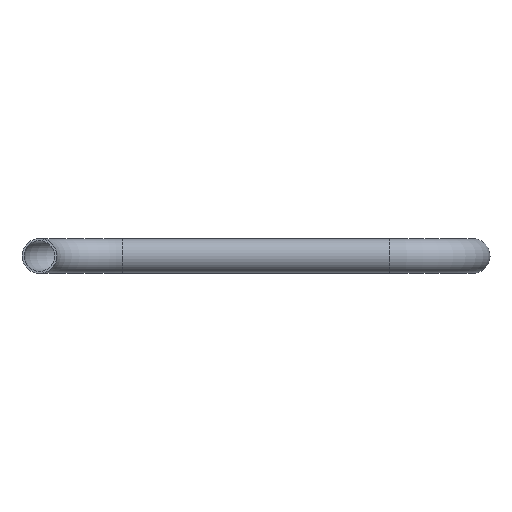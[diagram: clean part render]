
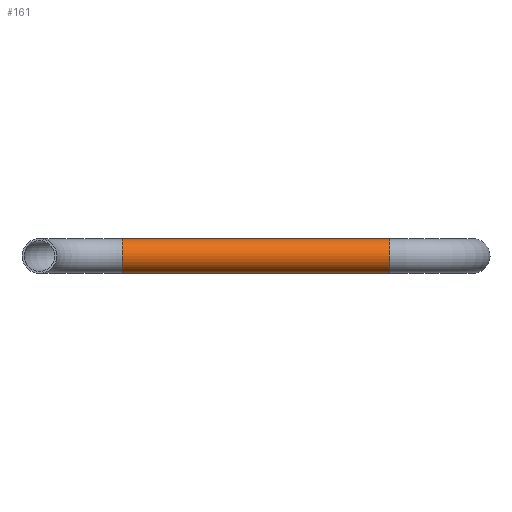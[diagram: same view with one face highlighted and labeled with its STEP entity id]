
A CAD part, front view. The second image highlights one B-rep face of the part: STEP entity #161.
In plain terms, the highlighted cylindrical face has radius 24.15 mm (diameter 48.3 mm), a full revolution.
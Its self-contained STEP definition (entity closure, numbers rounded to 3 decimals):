
#21 = CIRCLE ( 'NONE', #278, 24.15 ) ;
#37 = CARTESIAN_POINT ( 'NONE',  ( 485., 400., 24.15 ) ) ;
#40 = AXIS2_PLACEMENT_3D ( 'NONE', #179, #305, #279 ) ;
#72 = FACE_OUTER_BOUND ( 'NONE', #216, .T. ) ;
#73 = FACE_OUTER_BOUND ( 'NONE', #159, .T. ) ;
#76 = DIRECTION ( 'NONE',  ( 1., 0., 0. ) ) ;
#104 = VERTEX_POINT ( 'NONE', #106 ) ;
#106 = CARTESIAN_POINT ( 'NONE',  ( 115., 400., 24.15 ) ) ;
#117 = CIRCLE ( 'NONE', #40, 24.15 ) ;
#126 = CARTESIAN_POINT ( 'NONE',  ( 485., 400., 0. ) ) ;
#159 = EDGE_LOOP ( 'NONE', ( #238 ) ) ;
#161 = ADVANCED_FACE ( 'NONE', ( #73, #72 ), #171, .T. ) ;
#171 = CYLINDRICAL_SURFACE ( 'NONE', #327, 24.15 ) ;
#174 = DIRECTION ( 'NONE',  ( 0., 0., -1. ) ) ;
#177 = DIRECTION ( 'NONE',  ( 1., 0., 0. ) ) ;
#179 = CARTESIAN_POINT ( 'NONE',  ( 115., 400., 0. ) ) ;
#183 = VERTEX_POINT ( 'NONE', #37 ) ;
#198 = DIRECTION ( 'NONE',  ( 0., 0., 1. ) ) ;
#216 = EDGE_LOOP ( 'NONE', ( #288 ) ) ;
#238 = ORIENTED_EDGE ( 'NONE', *, *, #260, .F. ) ;
#247 = CARTESIAN_POINT ( 'NONE',  ( 115., 400., 0. ) ) ;
#260 = EDGE_CURVE ( 'NONE', #183, #183, #21, .T. ) ;
#278 = AXIS2_PLACEMENT_3D ( 'NONE', #126, #177, #198 ) ;
#279 = DIRECTION ( 'NONE',  ( 0., 0., 1. ) ) ;
#288 = ORIENTED_EDGE ( 'NONE', *, *, #291, .T. ) ;
#291 = EDGE_CURVE ( 'NONE', #104, #104, #117, .T. ) ;
#305 = DIRECTION ( 'NONE',  ( 1., 0., 0. ) ) ;
#327 = AXIS2_PLACEMENT_3D ( 'NONE', #247, #76, #174 ) ;
